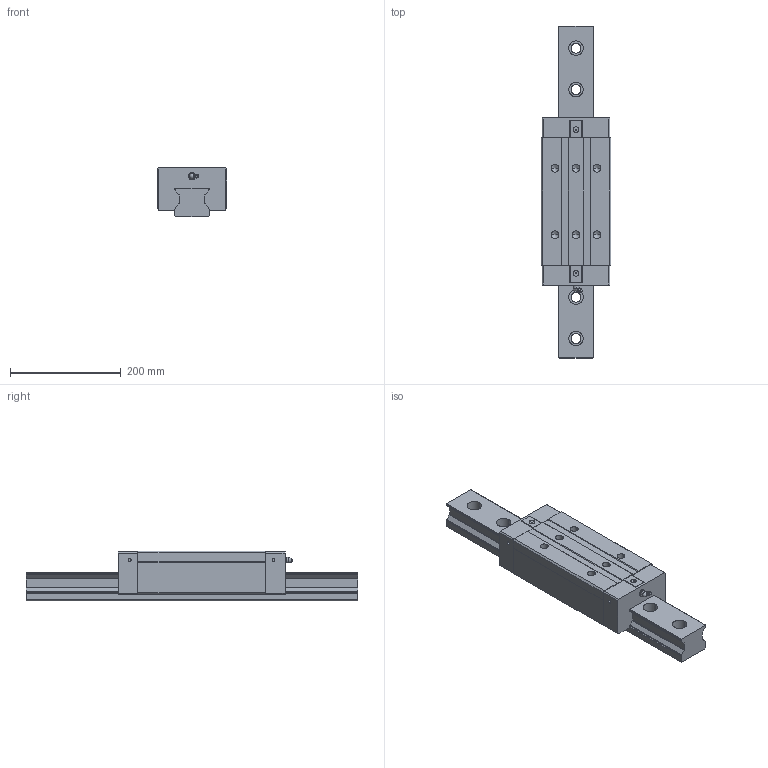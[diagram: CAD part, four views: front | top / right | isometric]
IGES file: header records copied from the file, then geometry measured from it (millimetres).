
Global section: file name:  ; native system: Kubotek KeyCreator V6.5.2 (0407); preprocessor: IGES 5.1; author:  ; organization:  ; date: 20100303.182259; units: millimetre
Bounding box: 126 x 600 x 90 mm (x, y, z)
Surface area: 346786.3 mm2 (no closed solid volume)
Topology: 0 solids, 0 shells, 242 faces, 1588 edges, 1574 vertices
Faces by surface type: bspline 242
